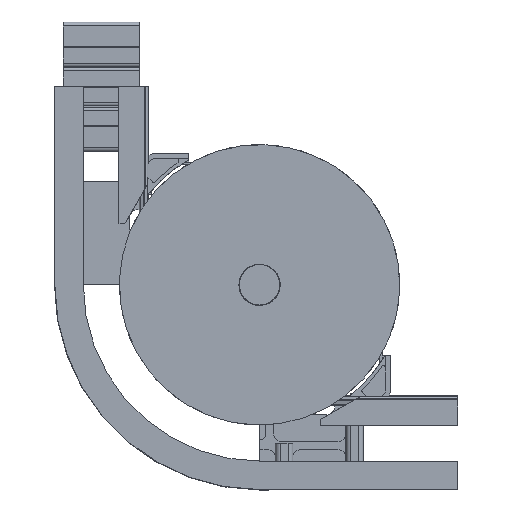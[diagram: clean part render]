
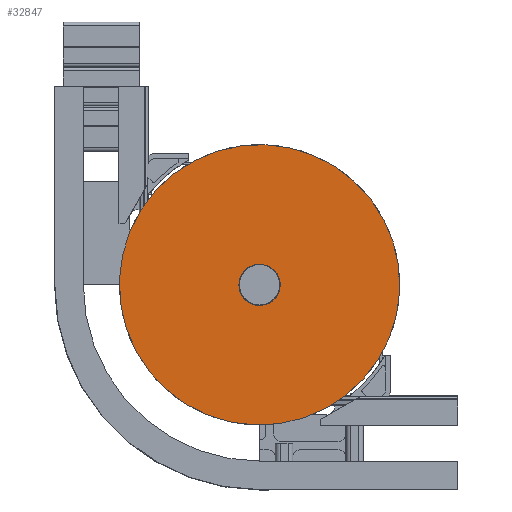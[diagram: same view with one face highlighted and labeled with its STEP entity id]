
A CAD part, front view. The second image highlights one B-rep face of the part: STEP entity #32847.
In plain terms, the highlighted planar face has unit normal (0, -1, 0).
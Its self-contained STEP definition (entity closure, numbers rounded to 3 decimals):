
#9772 = PLANE ( 'NONE',  #40767 ) ;
#9773 = CARTESIAN_POINT ( 'NONE',  ( 180.745, -67.5, -232.529 ) ) ;
#9774 = DIRECTION ( 'NONE',  ( 0., -1., 0. ) ) ;
#9775 = DIRECTION ( 'NONE',  ( -0.741, 0., 0.672 ) ) ;
#12373 = CARTESIAN_POINT ( 'NONE',  ( 200., -67.5, -250. ) ) ;
#12374 = DIRECTION ( 'NONE',  ( 0., -1., 0. ) ) ;
#12376 = DIRECTION ( 'NONE',  ( -0.741, 0., 0.672 ) ) ;
#12379 = CARTESIAN_POINT ( 'NONE',  ( 200., -67.5, -250. ) ) ;
#12380 = DIRECTION ( 'NONE',  ( 0., -1., 0. ) ) ;
#12382 = DIRECTION ( 'NONE',  ( -0.741, 0., 0.672 ) ) ;
#12445 = CARTESIAN_POINT ( 'NONE',  ( 200., -67.5, -250. ) ) ;
#12446 = DIRECTION ( 'NONE',  ( 0., -1., 0. ) ) ;
#12448 = DIRECTION ( 'NONE',  ( -0.741, 0., 0.672 ) ) ;
#15055 = CIRCLE ( 'NONE', #24561, 26. ) ;
#15056 = CIRCLE ( 'NONE', #24562, 177. ) ;
#15082 = CIRCLE ( 'NONE', #24565, 177. ) ;
#15334 = CARTESIAN_POINT ( 'NONE',  ( 200., -67.5, -250. ) ) ;
#15335 = DIRECTION ( 'NONE',  ( 0., -1., 0. ) ) ;
#15336 = DIRECTION ( 'NONE',  ( -0.741, 0., 0.672 ) ) ;
#17279 = ORIENTED_EDGE ( 'NONE', *, *, #31598, .T. ) ;
#17280 = ORIENTED_EDGE ( 'NONE', *, *, #31584, .T. ) ;
#17281 = ORIENTED_EDGE ( 'NONE', *, *, #31583, .F. ) ;
#17282 = ORIENTED_EDGE ( 'NONE', *, *, #30872, .F. ) ;
#18928 = CIRCLE ( 'NONE', #24341, 26. ) ;
#19836 = VERTEX_POINT ( 'NONE', #23576 ) ;
#19837 = VERTEX_POINT ( 'NONE', #23577 ) ;
#21618 = VERTEX_POINT ( 'NONE', #32520 ) ;
#21852 = VERTEX_POINT ( 'NONE', #28590 ) ;
#23576 = CARTESIAN_POINT ( 'NONE',  ( 180.745, -67.5, -232.529 ) ) ;
#23577 = CARTESIAN_POINT ( 'NONE',  ( 219.255, -67.5, -267.471 ) ) ;
#24341 = AXIS2_PLACEMENT_3D ( 'NONE', #15334, #15335, #15336 ) ;
#24561 = AXIS2_PLACEMENT_3D ( 'NONE', #12373, #12374, #12376 ) ;
#24562 = AXIS2_PLACEMENT_3D ( 'NONE', #12379, #12380, #12382 ) ;
#24565 = AXIS2_PLACEMENT_3D ( 'NONE', #12445, #12446, #12448 ) ;
#28590 = CARTESIAN_POINT ( 'NONE',  ( 331.085, -67.5, -368.936 ) ) ;
#30872 = EDGE_CURVE ( 'NONE', #19837, #19836, #18928, .T. ) ;
#31583 = EDGE_CURVE ( 'NONE', #19836, #19837, #15055, .T. ) ;
#31584 = EDGE_CURVE ( 'NONE', #21852, #21618, #15056, .T. ) ;
#31598 = EDGE_CURVE ( 'NONE', #21618, #21852, #15082, .T. ) ;
#32520 = CARTESIAN_POINT ( 'NONE',  ( 68.915, -67.5, -131.064 ) ) ;
#32847 = ADVANCED_FACE ( 'NONE', ( #36840, #36841 ), #9772, .T. ) ;
#36840 = FACE_OUTER_BOUND ( 'NONE', #40489, .T. ) ;
#36841 = FACE_BOUND ( 'NONE', #40430, .T. ) ;
#40430 = EDGE_LOOP ( 'NONE', ( #17281, #17282 ) ) ;
#40489 = EDGE_LOOP ( 'NONE', ( #17279, #17280 ) ) ;
#40767 = AXIS2_PLACEMENT_3D ( 'NONE', #9773, #9774, #9775 ) ;
